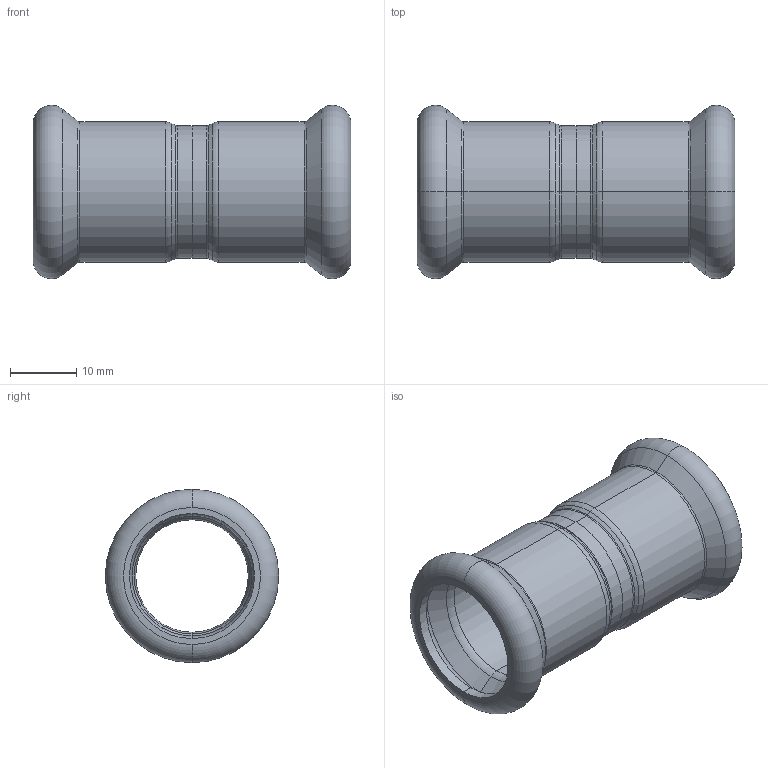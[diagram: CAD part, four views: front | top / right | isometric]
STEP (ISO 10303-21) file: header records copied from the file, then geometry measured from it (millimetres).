
FILE_DESCRIPTION (( 'STEP AP203' ), '1' );
FILE_NAME ('GDA5002.STEP', '2019-01-21T08:48:26', ( '' ), ( '' ), 'SwSTEP 2.0', 'SolidWorks 2015', '' );
FILE_SCHEMA (( 'CONFIG_CONTROL_DESIGN' ));
Length unit declared in the file: millimetre
Products named in the file (1): GDA5002
Bounding box: 48 x 26.2 x 26.2 mm (x, y, z)
Volume: 5062.1 mm3; surface area: 7111.3 mm2
Topology: 2 solids, 2 shells, 74 faces, 148 edges, 80 vertices
Faces by surface type: torus 32, cylinder 20, cone 16, plane 6
Entity records: 1999 total; most frequent: DIRECTION 410, CARTESIAN_POINT 303, ORIENTED_EDGE 296, AXIS2_PLACEMENT_3D 187, EDGE_CURVE 148, CIRCLE 112, VERTEX_POINT 80, EDGE_LOOP 80
